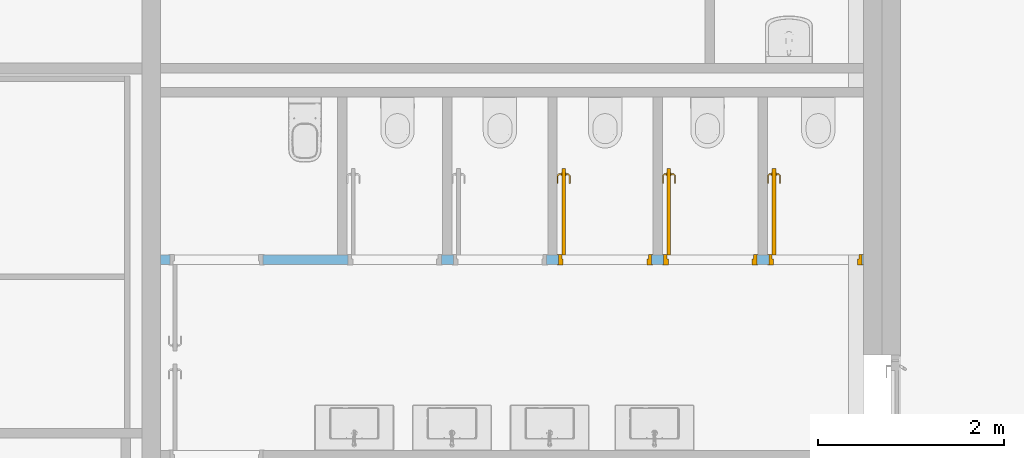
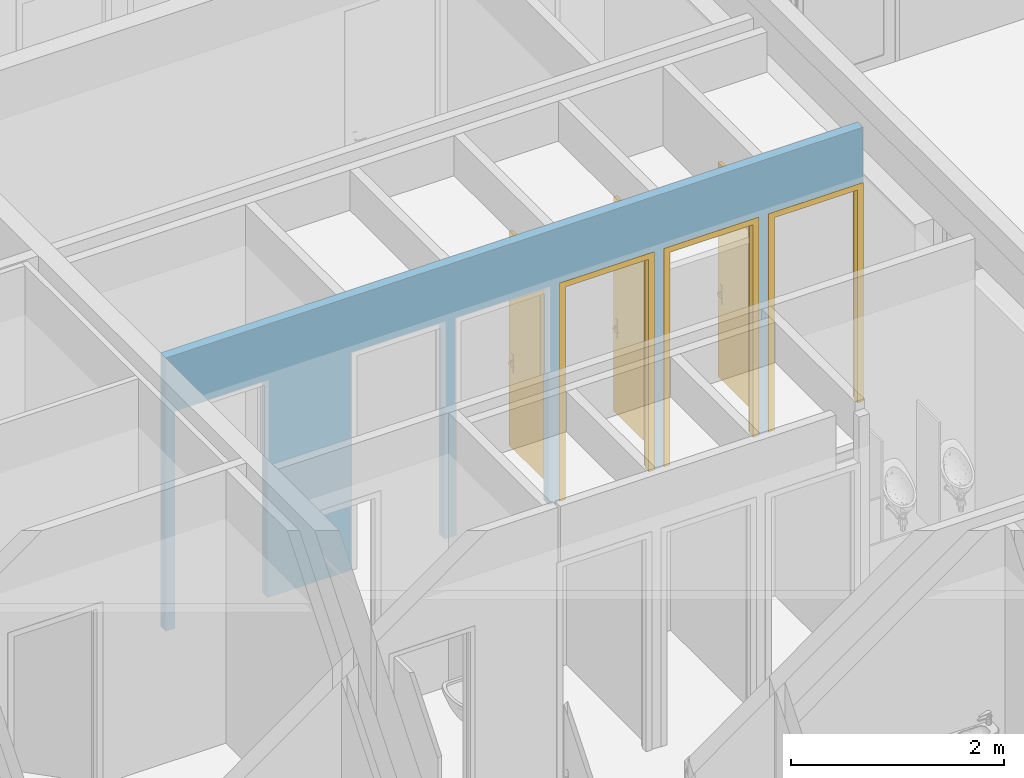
# One storey, part 121 of 240: 3 doors, 6 openings, plus 1 element that does not belong to this part.
"""IFC2X3 building model written with IfcOpenShell, lengths in centimetres."""

from ifc_helpers import new_model, entity, si_unit, converted_unit, derived_unit, direction, frame, frame_2d, origin, place, context, subcontext, project, spatial, rectangle, extrude, faceted_brep, source, transform, mapped, material, material_list, layer, layer_set, layer_usage, type_object, type_shapes, element, fill, save


model = new_model("IFC2X3")

# Units and contexts
model_context = context("Model", 3, precision=0.001, world=origin(), true_north=direction((6.12303176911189e-17, 1.0)))
body_context = subcontext(model_context, "Body", "Model", "MODEL_VIEW")
ifc_project = project(units=[si_unit("LENGTHUNIT", "METRE", prefix="CENTI"), si_unit("AREAUNIT", "SQUARE_METRE"), si_unit("VOLUMEUNIT", "CUBIC_METRE"), converted_unit("PLANEANGLEUNIT", "DEGREE", entity("IfcRatioMeasure", 0.0174532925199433), si_unit("PLANEANGLEUNIT", "RADIAN"), dimensions=[0, 0, 0, 0, 0, 0, 0]), si_unit("MASSUNIT", "GRAM", prefix="KILO"), derived_unit("MASSDENSITYUNIT", [(si_unit("MASSUNIT", "GRAM", prefix="KILO"), 1), (si_unit("LENGTHUNIT", "METRE"), -3)]), si_unit("TIMEUNIT", "SECOND"), si_unit("FREQUENCYUNIT", "HERTZ"), si_unit("THERMODYNAMICTEMPERATUREUNIT", "DEGREE_CELSIUS"), derived_unit("THERMALTRANSMITTANCEUNIT", [(si_unit("MASSUNIT", "GRAM", prefix="KILO"), 1), (si_unit("THERMODYNAMICTEMPERATUREUNIT", "KELVIN"), -1), (si_unit("TIMEUNIT", "SECOND"), -3)]), derived_unit("VOLUMETRICFLOWRATEUNIT", [(si_unit("LENGTHUNIT", "METRE"), 3), (si_unit("TIMEUNIT", "SECOND"), -1)]), si_unit("ELECTRICCURRENTUNIT", "AMPERE"), si_unit("ELECTRICVOLTAGEUNIT", "VOLT"), si_unit("POWERUNIT", "WATT"), si_unit("FORCEUNIT", "NEWTON", prefix="KILO"), si_unit("ILLUMINANCEUNIT", "LUX"), si_unit("LUMINOUSFLUXUNIT", "LUMEN"), si_unit("LUMINOUSINTENSITYUNIT", "CANDELA"), derived_unit("USERDEFINED", [(si_unit("MASSUNIT", "GRAM", prefix="KILO"), -1), (si_unit("LENGTHUNIT", "METRE"), -2), (si_unit("TIMEUNIT", "SECOND"), 3), (si_unit("LUMINOUSFLUXUNIT", "LUMEN"), 1)]), derived_unit("LINEARVELOCITYUNIT", [(si_unit("LENGTHUNIT", "METRE"), 1), (si_unit("TIMEUNIT", "SECOND"), -1)]), si_unit("PRESSUREUNIT", "PASCAL"), derived_unit("USERDEFINED", [(si_unit("LENGTHUNIT", "METRE"), -2), (si_unit("MASSUNIT", "GRAM", prefix="KILO"), 1), (si_unit("TIMEUNIT", "SECOND"), -2)])], contexts=[model_context])

# Site, building, storey
site_placement = place(None, frame((-2781.94577612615, 7442.24238424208, 0.0)))
site = spatial("IfcSite", under=ifc_project, at=site_placement, Name="Default", CompositionType="ELEMENT")
building_placement = place(site_placement, origin())
building = spatial("IfcBuilding", under=site, at=building_placement, CompositionType="ELEMENT")
storey_placement = place(building_placement, origin())
storey = spatial("IfcBuildingStorey", under=building, at=storey_placement, Name="N00 - COO", CompositionType="ELEMENT", Elevation=0.0)

# Wall, openings, doors
ifc_material_1 = material(Name="01 - Enduit/Plâtre")
ifc_layer_1 = layer(ifc_material_1, 1.3)
ifc_material_2 = material(Name="Terre cuite")
ifc_layer_2 = layer(ifc_material_2, 7.4)
ifc_layer_3 = layer(ifc_material_1, 1.3)
ifc_layer_set = layer_set([ifc_layer_1, ifc_layer_2, ifc_layer_3], Name="Mur de base:06 - cloisons - Carreau de terre cuite (10cm)")
ifc_layer_usage = layer_usage(ifc_layer_set, "AXIS2", "NEGATIVE", 5.0)
wall_type = type_object("IfcWallType", Name="Mur de base:06 - cloisons - Carreau de terre cuite (10cm)", PredefinedType="STANDARD", material=ifc_layer_set)
wall_placement = place(building_placement, frame((-9677.0, -2410.07903364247, 0.0)))
wall = element("IfcWallStandardCase", 1, at=wall_placement, inside=storey, type_object=wall_type, material=ifc_layer_usage, Name="Mur de base:06 - cloisons - Carreau de terre cuite (10cm)", ObjectType="Mur de base:06 - cloisons - Carreau de terre cuite (10cm)", context=body_context, shape_type="SweptSolid", body=[
    extrude(rectangle(XDim=755.067816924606, YDim=10.0000000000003, at=frame_2d((377.533908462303, 0.0), x_axis=(-1.0, 0.0))), origin(), (0.0, 0.0, 1.0), 313.0),
])
opening_1_placement = place(wall_placement, frame((110.000003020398, 5.0, 0.0)))
element("IfcOpeningElement", 2, at=opening_1_placement, cuts=wall, Name="Int. Simple:PP simple (0.93m x 2.50m):1", ObjectType="Opening", context=body_context, shape_type="SweptSolid", body=[
    extrude(rectangle(XDim=248.500000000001, YDim=99.9999999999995, at=frame_2d((124.250000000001, 49.9999999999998), x_axis=(1.0, 0.0))), frame((0.0, 0.0, 0.0), z_axis=(0.0, -1.0, 0.0), x_axis=(0.0, 0.0, 1.0)), (0.0, 0.0, 1.0), 10.0),
])
opening_2_placement = place(wall_placement, frame((201.533911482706, -5.0, 0.0)))
element("IfcOpeningElement", 3, at=opening_2_placement, cuts=wall, Name="Int. Simple:PP simple (0.93m x 2.50m):1", ObjectType="Opening", context=body_context, shape_type="SweptSolid", body=[
    extrude(rectangle(XDim=248.500000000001, YDim=99.9999999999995, at=frame_2d((124.250000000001, 50.0), x_axis=(1.0, 0.0))), frame((0.0, 0.0, 0.0), z_axis=(0.0, 1.0, 0.0), x_axis=(0.0, 0.0, 1.0)), (0.0, 0.0, 1.0), 10.0),
])
opening_3_placement = place(wall_placement, frame((314.540693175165, -5.0, 0.0)))
element("IfcOpeningElement", 4, at=opening_3_placement, cuts=wall, Name="Int. Simple:PP simple (0.93m x 2.50m):1", ObjectType="Opening", context=body_context, shape_type="SweptSolid", body=[
    extrude(rectangle(XDim=248.500000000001, YDim=99.9999999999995, at=frame_2d((124.250000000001, 50.0), x_axis=(1.0, 0.0))), frame((0.0, 0.0, 0.0), z_axis=(0.0, 1.0, 0.0), x_axis=(0.0, 0.0, 1.0)), (0.0, 0.0, 1.0), 10.0),
])
opening_4_placement = place(wall_placement, frame((540.554256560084, -5.0, 0.0)))
opening_4 = element("IfcOpeningElement", 5, at=opening_4_placement, cuts=wall, Name="Int. Simple:PP simple (0.93m x 2.50m):1", ObjectType="Opening", context=body_context, shape_type="SweptSolid", body=[
    extrude(rectangle(XDim=248.500000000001, YDim=99.9999999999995, at=frame_2d((124.250000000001, 50.0), x_axis=(1.0, 0.0))), frame((0.0, 0.0, 0.0), z_axis=(0.0, 1.0, 0.0), x_axis=(0.0, 0.0, 1.0)), (0.0, 0.0, 1.0), 10.0),
])
opening_5_placement = place(wall_placement, frame((653.567819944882, -5.0, 0.0)))
opening_5 = element("IfcOpeningElement", 6, at=opening_5_placement, cuts=wall, Name="Int. Simple:PP simple (0.93m x 2.50m):1", ObjectType="Opening", context=body_context, shape_type="SweptSolid", body=[
    extrude(rectangle(XDim=248.500000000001, YDim=99.9999999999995, at=frame_2d((124.250000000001, 50.0), x_axis=(1.0, 0.0))), frame((0.0, 0.0, 0.0), z_axis=(0.0, 1.0, 0.0), x_axis=(0.0, 0.0, 1.0)), (0.0, 0.0, 1.0), 10.0),
])
opening_6_placement = place(wall_placement, frame((427.547474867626, -5.0, 0.0)))
opening_6 = element("IfcOpeningElement", 7, at=opening_6_placement, cuts=wall, Name="Int. Simple:PP simple (0.93m x 2.50m):1", ObjectType="Opening", context=body_context, shape_type="SweptSolid", body=[
    extrude(rectangle(XDim=248.500000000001, YDim=99.9999999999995, at=frame_2d((124.250000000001, 50.0), x_axis=(1.0, 0.0))), frame((0.0, 0.0, 0.0), z_axis=(0.0, 1.0, 0.0), x_axis=(0.0, 0.0, 1.0)), (0.0, 0.0, 1.0), 10.0),
])
ifc_material_3 = material(Name="Finition Peinture - Blanc satiné")
ifc_material_4 = material(Name="Bois - Panneau de porte")
ifc_material_5 = material(Name="Bois - Cadre de porte")
ifc_material_list_1 = material_list([ifc_material_3, ifc_material_4, ifc_material_5])
ifc_material_list_2 = material_list([ifc_material_3, ifc_material_4, ifc_material_5])
door_style = type_object("IfcDoorStyle", Name="PP simple (0.93m x 2.50m)", ConstructionType="NOTDEFINED", OperationType="SINGLE_SWING_LEFT", ParameterTakesPrecedence=False, Sizeable=False, material=ifc_material_list_2)
shared_shape = source(origin(), body_context, "Body", "Brep", [
    faceted_brep([(97.0, -85.9647238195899, 86.6003983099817), (97.0, -85.0, 87.0), (97.0, -85.0, 108.0), (97.0, -85.96472381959, 108.399601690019), (97.0, -87.0, 108.535898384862), (97.0, -88.0352761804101, 108.399601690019), (97.0, -89.0, 108.0), (97.0, -89.0, 87.0), (97.0, -88.03527618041, 86.6003983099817), (97.0, -87.0, 86.464101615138), (96.5000000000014, -85.96472381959, 108.399601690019), (96.5000000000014, -85.0, 108.0), (96.5000000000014, -85.0, 87.0), (96.5000000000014, -85.9647238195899, 86.6003983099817), (96.5000000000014, -87.0, 86.464101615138), (96.5000000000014, -88.03527618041, 86.6003983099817), (96.5000000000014, -89.0, 87.0), (96.5000000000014, -89.0, 108.0), (96.5000000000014, -88.0352761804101, 108.399601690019), (96.5000000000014, -87.0, 108.535898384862)], [[[0, 1, 2, 3, 4, 5, 6, 7, 8, 9]], [[10, 11, 12, 13, 14, 15, 16, 17, 18, 19]], [[16, 15, 8, 7]], [[8, 15, 14, 9]], [[14, 13, 0, 9]], [[13, 12, 1, 0]], [[2, 1, 12, 11]], [[11, 10, 3, 2]], [[3, 10, 19, 4]], [[19, 18, 5, 4]], [[18, 17, 6, 5]], [[7, 6, 17, 16]]]),
    faceted_brep([(92.5000000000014, -85.9647238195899, 86.6003983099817), (92.5000000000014, -85.0, 87.0), (92.5000000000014, -85.0, 108.0), (92.5000000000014, -85.96472381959, 108.399601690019), (92.5000000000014, -87.0, 108.535898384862), (92.5000000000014, -88.0352761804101, 108.399601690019), (92.5000000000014, -89.0, 108.0), (92.5000000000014, -89.0, 87.0), (92.5000000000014, -88.03527618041, 86.6003983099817), (92.5000000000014, -87.0, 86.464101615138), (92.0, -85.96472381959, 108.399601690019), (92.0, -85.0, 108.0), (92.0, -85.0, 87.0), (92.0, -85.9647238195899, 86.6003983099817), (92.0, -87.0, 86.464101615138), (92.0, -88.03527618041, 86.6003983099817), (92.0, -89.0, 87.0), (92.0, -89.0, 108.0), (92.0, -88.0352761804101, 108.399601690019), (92.0, -87.0, 108.535898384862)], [[[0, 1, 2, 3, 4, 5, 6, 7, 8, 9]], [[10, 11, 12, 13, 14, 15, 16, 17, 18, 19]], [[11, 10, 3, 2]], [[3, 10, 19, 4]], [[19, 18, 5, 4]], [[18, 17, 6, 5]], [[7, 6, 17, 16]], [[16, 15, 8, 7]], [[8, 15, 14, 9]], [[14, 13, 0, 9]], [[13, 12, 1, 0]], [[2, 1, 12, 11]]]),
    faceted_brep([(97.0, -87.2025298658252, 100.778044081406), (97.0, -86.7974701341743, 100.778044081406), (97.0, -86.3999999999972, 100.699999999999), (97.0, -86.3999999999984, 99.3000000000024), (97.0, -86.7974701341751, 99.2219559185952), (97.0, -87.202529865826, 99.221955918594), (97.0, -87.6000000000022, 99.2999999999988), (97.0, -87.6000000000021, 100.7), (99.7650950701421, -87.6000000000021, 100.7), (99.6004575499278, -87.2025298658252, 100.778044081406), (101.205345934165, -85.5976414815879, 100.778044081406), (100.800286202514, -85.4298602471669, 100.778044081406), (99.4326763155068, -86.7974701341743, 100.778044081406), (99.2680387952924, -86.3999999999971, 100.7), (99.2680387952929, -86.3999999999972, 99.3000000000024), (99.4326763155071, -86.7974701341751, 99.2219559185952), (100.800286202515, -85.4298602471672, 99.2219559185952), (101.205345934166, -85.5976414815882, 99.221955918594), (99.6004575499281, -87.202529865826, 99.221955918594), (99.7650950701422, -87.6000000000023, 99.2999999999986), (101.602816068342, -85.7622790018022, 100.7), (100.402816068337, -85.2652227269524, 100.7), (100.402816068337, -85.2652227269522, 99.3000000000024), (101.602816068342, -85.7622790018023, 99.2999999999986), (101.602816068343, -76.9981359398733, 99.2999999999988), (101.205345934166, -76.9981359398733, 99.221955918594), (100.800286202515, -76.9981359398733, 99.2219559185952), (100.402816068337, -76.9981359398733, 99.3000000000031), (100.402816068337, -76.9981359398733, 100.7), (100.800286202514, -76.9981359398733, 100.778044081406), (101.205345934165, -76.9981359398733, 100.778044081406), (101.602816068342, -76.9981359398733, 100.699999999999), (101.602816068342, -81.7692302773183, 100.7), (101.00281606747, -81.2139980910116, 100.78786867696), (100.402816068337, -81.1316793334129, 100.7), (100.402816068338, -81.1316793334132, 99.3000000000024), (101.002816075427, -81.2139981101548, 99.2121313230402), (101.602816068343, -81.7692299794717, 99.2999999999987)], [[[0, 1, 2, 3, 4, 5, 6, 7]], [[8, 9, 0, 7]], [[9, 10, 11, 12, 1, 0]], [[12, 13, 2, 1]], [[3, 2, 13, 14]], [[14, 15, 4, 3]], [[15, 16, 17, 18, 5, 4]], [[18, 19, 6, 5]], [[7, 6, 19, 8]], [[20, 10, 9, 8]], [[11, 21, 13, 12]], [[14, 13, 21, 22]], [[22, 16, 15, 14]], [[17, 23, 19, 18]], [[8, 19, 23, 20]], [[24, 25, 26, 27, 28, 29, 30, 31]], [[32, 30, 33]], [[31, 30, 32]], [[10, 20, 32]], [[33, 34, 11]], [[21, 11, 34]], [[34, 29, 28]], [[30, 29, 33]], [[29, 34, 33]], [[10, 32, 33]], [[10, 33, 11]], [[22, 21, 34, 28, 27, 35]], [[35, 26, 36]], [[37, 36, 25]], [[22, 35, 16]], [[35, 27, 26]], [[24, 37, 25]], [[23, 17, 37]], [[37, 17, 36]], [[17, 16, 36]], [[16, 35, 36]], [[25, 36, 26]], [[20, 23, 37, 24, 31, 32]]]),
    faceted_brep([(92.0, -87.2025298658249, 100.778044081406), (92.0, -87.6000000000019, 100.7), (92.0, -87.6000000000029, 99.2999999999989), (92.0, -87.2025298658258, 99.221955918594), (92.0, -86.7974701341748, 99.2219559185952), (92.0, -86.399999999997, 99.3000000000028), (92.0, -86.3999999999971, 100.7), (92.0, -86.797470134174, 100.778044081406), (89.7514795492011, -86.399999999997, 99.3000000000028), (89.751479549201, -86.399999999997, 100.7), (89.5868420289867, -86.7974701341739, 100.778044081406), (88.2054812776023, -85.4161093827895, 100.778044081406), (87.8004215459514, -85.5838906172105, 100.778044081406), (89.4190607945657, -87.2025298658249, 100.778044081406), (89.2544232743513, -87.6000000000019, 100.7), (89.2544232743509, -87.6000000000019, 99.2999999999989), (89.4190607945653, -87.2025298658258, 99.221955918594), (87.8004215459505, -85.5838906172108, 99.221955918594), (88.2054812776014, -85.4161093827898, 99.2219559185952), (89.5868420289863, -86.7974701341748, 99.2219559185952), (88.6029514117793, -85.2514718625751, 99.3000000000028), (88.6029514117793, -85.2514718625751, 100.7), (87.4029514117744, -85.7485281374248, 100.7), (87.4029514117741, -85.7485281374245, 99.2999999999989), (88.6029514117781, -76.9954216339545, 99.3000000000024), (88.2054812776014, -76.9954216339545, 99.2219559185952), (87.8004215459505, -76.9954216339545, 99.221955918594), (87.4029514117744, -76.9954216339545, 99.2999999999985), (87.4029514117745, -76.9954216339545, 100.7), (87.8004215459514, -76.9954216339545, 100.778044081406), (88.2054812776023, -76.9954216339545, 100.778044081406), (88.6029514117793, -76.9954216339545, 100.7), (88.6029514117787, -81.1234479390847, 99.3000000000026), (88.6029514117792, -81.1234467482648, 100.7), (88.0029514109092, -81.2057655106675, 100.78786867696), (87.4029514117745, -81.755479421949, 100.7), (87.4029514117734, -81.75547956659, 99.2999999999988), (88.0029514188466, -81.2057654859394, 99.2121313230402)], [[[0, 1, 2, 3, 4, 5, 6, 7]], [[6, 5, 8, 9]], [[9, 10, 7, 6]], [[10, 11, 12, 13, 0, 7]], [[13, 14, 1, 0]], [[2, 1, 14, 15]], [[15, 16, 3, 2]], [[16, 17, 18, 19, 4, 3]], [[19, 8, 5, 4]], [[9, 8, 20, 21]], [[21, 11, 10, 9]], [[12, 22, 14, 13]], [[15, 14, 22, 23]], [[23, 17, 16, 15]], [[18, 20, 8, 19]], [[24, 25, 26, 27, 28, 29, 30, 31]], [[21, 20, 32, 24, 31, 33]], [[33, 30, 34]], [[35, 34, 29]], [[21, 33, 11]], [[33, 31, 30]], [[28, 35, 29]], [[22, 12, 35]], [[35, 12, 34]], [[12, 11, 34]], [[11, 33, 34]], [[29, 34, 30]], [[22, 35, 28, 27, 36, 23]], [[36, 26, 37]], [[27, 26, 36]], [[17, 23, 36]], [[37, 32, 18]], [[20, 18, 32]], [[32, 25, 24]], [[26, 25, 37]], [[25, 32, 37]], [[17, 36, 37]], [[17, 37, 18]]]),
    faceted_brep([(92.5000000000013, -93.0, 245.0), (92.5000000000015, 0.0, 245.0), (92.5000000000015, 0.0, 0.0), (92.5000000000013, -93.0, 0.0), (96.5000000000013, -93.0, 245.0), (96.5000000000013, -93.0, 0.0), (96.5000000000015, 0.0, 0.0), (96.5000000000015, 0.0, 245.0)], [[[0, 1, 2, 3]], [[4, 5, 6, 7]], [[1, 0, 4, 7]], [[2, 1, 7, 6]], [[3, 2, 6, 5]], [[0, 3, 5, 4]]]),
    faceted_brep([(0.0, 10.0, 0.0), (-1.50000000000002, 10.0, 0.0), (-1.50000000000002, 10.5000000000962, 0.0), (5.0, 10.5000000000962, 0.0), (5.0, 4.0, 0.0), (3.50000000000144, 4.0, 0.0), (3.50000000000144, -0.500000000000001, 0.0), (-1.50000000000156, -0.500000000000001, 0.0), (-1.50000000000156, 0.0, 0.0), (0.0, 0.0, 0.0), (0.0, 0.0, 248.500000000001), (0.0, 10.0, 248.500000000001), (100.0, 10.0, 248.500000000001), (100.0, 10.0, 0.0), (101.5, 10.0, 0.0), (101.5, 10.0, 250.0), (-1.50000000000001, 10.0, 250.0), (5.0, 10.5000000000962, 243.5), (5.0, 4.0, 243.5), (95.0, 4.0, 243.5), (95.0, 4.0, 0.0), (96.499999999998, 4.0, 0.0), (96.499999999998, 4.0, 245.0), (3.50000000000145, 4.0, 245.0), (100.0, 0.0, 248.500000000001), (100.0, 0.0, 0.0), (101.500000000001, 0.0, 0.0), (101.500000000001, -0.500000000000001, 0.0), (96.499999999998, -0.500000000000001, 0.0), (95.0, 10.5000000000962, 0.0), (101.5, 10.5000000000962, 0.0), (95.0, 10.5000000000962, 243.5), (3.50000000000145, -0.500000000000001, 245.0), (96.499999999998, -0.500000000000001, 245.0), (101.500000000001, -0.500000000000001, 250.0), (-1.50000000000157, -0.500000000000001, 250.0), (-1.50000000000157, 0.0, 250.0), (101.500000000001, 0.0, 250.0), (-1.50000000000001, 10.5000000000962, 250.0), (101.5, 10.5000000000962, 250.0)], [[[0, 1, 2, 3, 4, 5, 6, 7, 8, 9]], [[0, 9, 10, 11]], [[1, 0, 11, 12, 13, 14, 15, 16]], [[3, 17, 18, 4]], [[5, 4, 18, 19, 20, 21, 22, 23]], [[12, 24, 25, 13]], [[13, 25, 26, 27, 28, 21, 20, 29, 30, 14]], [[19, 31, 29, 20]], [[11, 10, 24, 12]], [[18, 17, 31, 19]], [[5, 23, 32, 6]], [[7, 6, 32, 33, 28, 27, 34, 35]], [[8, 7, 35, 36]], [[9, 8, 36, 37, 26, 25, 24, 10]], [[2, 1, 16, 38]], [[3, 2, 38, 39, 30, 29, 31, 17]], [[33, 22, 21, 28]], [[37, 34, 27, 26]], [[39, 15, 14, 30]], [[32, 23, 22, 33]], [[36, 35, 34, 37]], [[38, 16, 15, 39]]]),
])
type_shapes(door_style, [shared_shape])
door_1_placement = place(opening_6_placement, frame((100.0, 10.0, 0.0), z_axis=(0.0, 0.0, 1.0), x_axis=(-1.0, 0.0, 0.0)))
door_1 = element("IfcDoor", 8, at=door_1_placement, inside=storey, type_object=door_style, material=ifc_material_list_1, Name="Int. Simple:PP simple (0.93m x 2.50m)", ObjectType="Int. Simple:PP simple (0.93m x 2.50m)", OverallHeight=248.500000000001, OverallWidth=99.9999999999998, context=body_context, shape_type="MappedRepresentation", body=[
    mapped(shared_shape, transform((0.0, 0.0, 0.0), scale=1.0)),
])
fill(opening_6, door_1)
ifc_material_list_3 = material_list([ifc_material_3, ifc_material_4, ifc_material_5])
door_2_placement = place(opening_4_placement, frame((100.0, 10.0, 0.0), z_axis=(0.0, 0.0, 1.0), x_axis=(-1.0, 0.0, 0.0)))
door_2 = element("IfcDoor", 9, at=door_2_placement, inside=storey, type_object=door_style, material=ifc_material_list_3, Name="Int. Simple:PP simple (0.93m x 2.50m)", ObjectType="Int. Simple:PP simple (0.93m x 2.50m)", OverallHeight=248.500000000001, OverallWidth=99.9999999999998, context=body_context, shape_type="MappedRepresentation", body=[
    mapped(shared_shape, transform((0.0, 0.0, 0.0), scale=1.0)),
])
fill(opening_4, door_2)
ifc_material_list_4 = material_list([ifc_material_3, ifc_material_4, ifc_material_5])
door_3_placement = place(opening_5_placement, frame((100.0, 10.0, 0.0), z_axis=(0.0, 0.0, 1.0), x_axis=(-1.0, 0.0, 0.0)))
door_3 = element("IfcDoor", 10, at=door_3_placement, inside=storey, type_object=door_style, material=ifc_material_list_4, Name="Int. Simple:PP simple (0.93m x 2.50m)", ObjectType="Int. Simple:PP simple (0.93m x 2.50m)", OverallHeight=248.500000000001, OverallWidth=99.9999999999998, context=body_context, shape_type="MappedRepresentation", body=[
    mapped(shared_shape, transform((0.0, 0.0, 0.0), scale=1.0)),
])
fill(opening_5, door_3)

save(model, "model.ifc")
